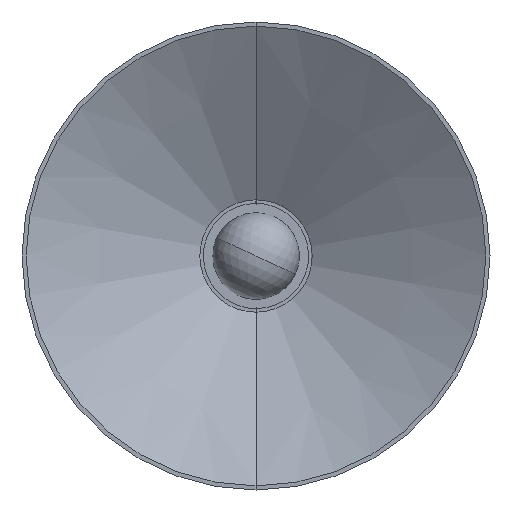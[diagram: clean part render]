
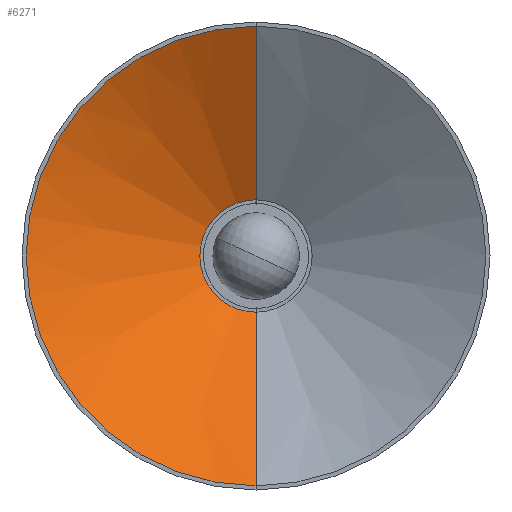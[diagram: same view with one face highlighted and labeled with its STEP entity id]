
A CAD part, front view. The second image highlights one B-rep face of the part: STEP entity #6271.
In plain terms, the highlighted conical face has half-angle 59.05 degrees and reference radius 11.335 mm.
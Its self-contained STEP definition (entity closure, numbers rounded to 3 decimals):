
#442 = AXIS2_PLACEMENT_3D ( 'NONE', #5960, #6843, #9588 ) ;
#518 = AXIS2_PLACEMENT_3D ( 'NONE', #2574, #6163, #3464 ) ;
#520 = CARTESIAN_POINT ( 'NONE',  ( 0., -1.927, 0. ) ) ;
#534 = VECTOR ( 'NONE', #10961, 1000. ) ;
#1418 = VERTEX_POINT ( 'NONE', #2189 ) ;
#1701 = CARTESIAN_POINT ( 'NONE',  ( 0., -1.927, 12.047 ) ) ;
#2189 = CARTESIAN_POINT ( 'NONE',  ( 0., -91., 160.583 ) ) ;
#2234 = DIRECTION ( 'NONE',  ( 0., 0., -1. ) ) ;
#2324 = CARTESIAN_POINT ( 'NONE',  ( 0., -1.927, -12.047 ) ) ;
#2468 = ORIENTED_EDGE ( 'NONE', *, *, #5868, .F. ) ;
#2574 = CARTESIAN_POINT ( 'NONE',  ( 0., -1.5, 0. ) ) ;
#2585 = AXIS2_PLACEMENT_3D ( 'NONE', #520, #3114, #2234 ) ;
#3114 = DIRECTION ( 'NONE',  ( 0., 1., 0. ) ) ;
#3464 = DIRECTION ( 'NONE',  ( 0., 0., -1. ) ) ;
#3637 = EDGE_LOOP ( 'NONE', ( #6955, #5716, #5163, #2468 ) ) ;
#3694 = LINE ( 'NONE', #3818, #534 ) ;
#3818 = CARTESIAN_POINT ( 'NONE',  ( 0., -1.5, 11.335 ) ) ;
#4977 = LINE ( 'NONE', #11301, #9946 ) ;
#5163 = ORIENTED_EDGE ( 'NONE', *, *, #11217, .F. ) ;
#5530 = CIRCLE ( 'NONE', #442, 160.583 ) ;
#5716 = ORIENTED_EDGE ( 'NONE', *, *, #8523, .T. ) ;
#5868 = EDGE_CURVE ( 'NONE', #11284, #9575, #4977, .T. ) ;
#5960 = CARTESIAN_POINT ( 'NONE',  ( 0., -91., 0. ) ) ;
#6147 = EDGE_CURVE ( 'NONE', #11284, #7985, #10130, .T. ) ;
#6163 = DIRECTION ( 'NONE',  ( 0., -1., 0. ) ) ;
#6271 = ADVANCED_FACE ( 'NONE', ( #11548 ), #9187, .F. ) ;
#6843 = DIRECTION ( 'NONE',  ( 0., 1., 0. ) ) ;
#6955 = ORIENTED_EDGE ( 'NONE', *, *, #6147, .T. ) ;
#7882 = CARTESIAN_POINT ( 'NONE',  ( 0., -91., -160.583 ) ) ;
#7985 = VERTEX_POINT ( 'NONE', #1701 ) ;
#8523 = EDGE_CURVE ( 'NONE', #7985, #1418, #3694, .T. ) ;
#9187 = CONICAL_SURFACE ( 'NONE', #518, 11.335, 1.031 ) ;
#9575 = VERTEX_POINT ( 'NONE', #7882 ) ;
#9588 = DIRECTION ( 'NONE',  ( 0., 0., 1. ) ) ;
#9946 = VECTOR ( 'NONE', #10412, 1000. ) ;
#10130 = CIRCLE ( 'NONE', #2585, 12.047 ) ;
#10412 = DIRECTION ( 'NONE',  ( 0., -0.514, -0.858 ) ) ;
#10961 = DIRECTION ( 'NONE',  ( 0., -0.514, 0.858 ) ) ;
#11217 = EDGE_CURVE ( 'NONE', #9575, #1418, #5530, .T. ) ;
#11284 = VERTEX_POINT ( 'NONE', #2324 ) ;
#11301 = CARTESIAN_POINT ( 'NONE',  ( 0., -1.5, -11.335 ) ) ;
#11548 = FACE_OUTER_BOUND ( 'NONE', #3637, .T. ) ;
